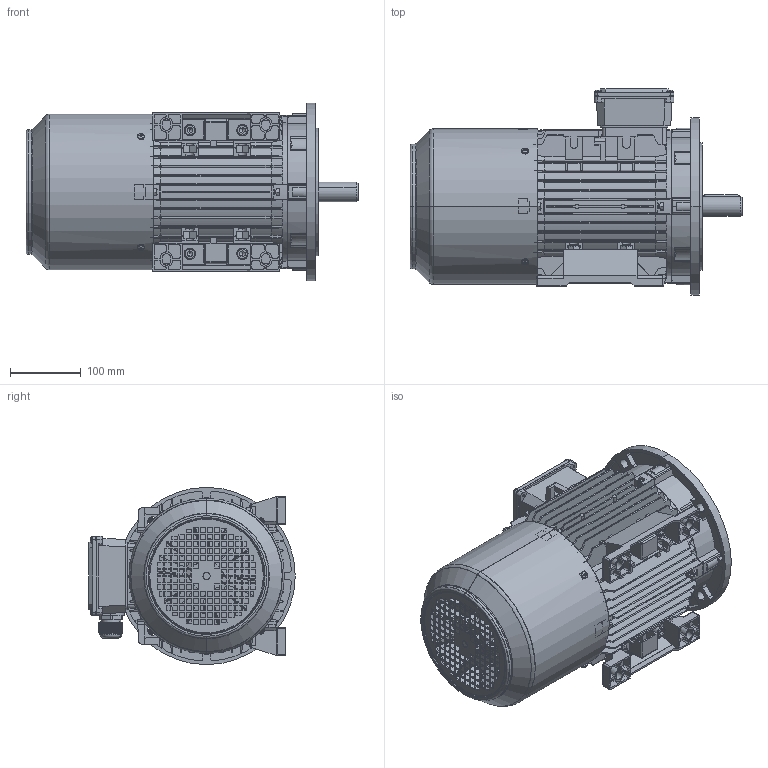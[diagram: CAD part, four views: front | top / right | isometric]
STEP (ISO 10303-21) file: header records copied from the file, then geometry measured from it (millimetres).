
FILE_DESCRIPTION (( 'STEP AP203' ), '1' );
FILE_NAME ('TB112 B35（风罩不带手柄孔）.STEP', '2021-10-26T01:32:49', ( '' ), ( '' ), 'SwSTEP 2.0', 'SolidWorks 2014', '' );
FILE_SCHEMA (( 'CONFIG_CONTROL_DESIGN' ));
Length unit declared in the file: millimetre
Products named in the file (17): TB112綴裔; TA112B5楊擘1; Hexagon socket head cap screws GB_GB_FASTENER_SCREWS_HSHCS M10X25-N; MS132諉盄碟裔; T112儂褲; Hexagon nuts grade C GB_GB_FASTENER_NUT_SNC1 M10-N; TB112 B35（风罩不带手柄孔）; TB112蛌粣; Hexagon socket head cap screws GB_GB_FASTENER_SCREWS_HSHCS M6X30-N; Cross recessed thread forming screws GB_GB_CROSS_SCREWS_TYPE138 M5X12-N; 112怢宒瑞珔; T112菁褐; Plain parallel keys_GB_CONNECTING_PIECE_KEYS_CSK 8X50; 112-132堤盄蹟杶; MS132諉盄碟釱; Hexagon nuts grade C GB_GB_FASTENER_NUT_SNC1 M6-N; TB112瑞欶(祥湍忒梟謂)
Assembly tree (45 placements, depth 2):
  TB112 B35（风罩不带手柄孔）
    T112儂褲
    T112菁褐  x2
    TB112綴裔
    TB112蛌粣
    112-132堤盄蹟杶  x2
    Hexagon socket head cap screws GB_GB_FASTENER_SCREWS_HSHCS M10X25-N  x4
    Cross recessed thread forming screws GB_GB_CROSS_SCREWS_TYPE138 M5X12-N  x8
    Hexagon nuts grade C GB_GB_FASTENER_NUT_SNC1 M6-N  x8
    Hexagon nuts grade C GB_GB_FASTENER_NUT_SNC1 M10-N  x4
    Plain parallel keys_GB_CONNECTING_PIECE_KEYS_CSK 8X50
    TA112B5楊擘1
    Hexagon socket head cap screws GB_GB_FASTENER_SCREWS_HSHCS M6X30-N  x8
    MS132諉盄碟釱
    MS132諉盄碟裔
    112怢宒瑞珔
    TB112瑞欶(祥湍忒梟謂)
Bounding box: 468 x 291 x 250 mm (x, y, z)
Volume: 2662482.9 mm3; surface area: 1467823.9 mm2
Topology: 45 solids, 45 shells, 4593 faces, 12579 edges, 8180 vertices
Faces by surface type: plane 2926, cylinder 1145, cone 294, torus 196, sphere 26, bspline 6
Entity records: 124343 total; most frequent: CARTESIAN_POINT 29187, ORIENTED_EDGE 20116, DIRECTION 18182, EDGE_CURVE 10058, VECTOR 6588, LINE 6588, VERTEX_POINT 6584, AXIS2_PLACEMENT_3D 5797
